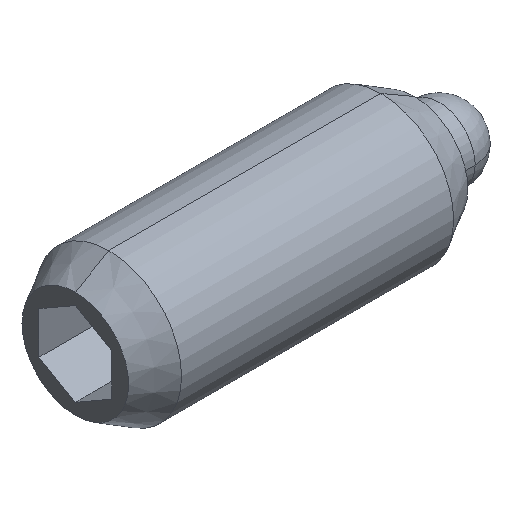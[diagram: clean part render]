
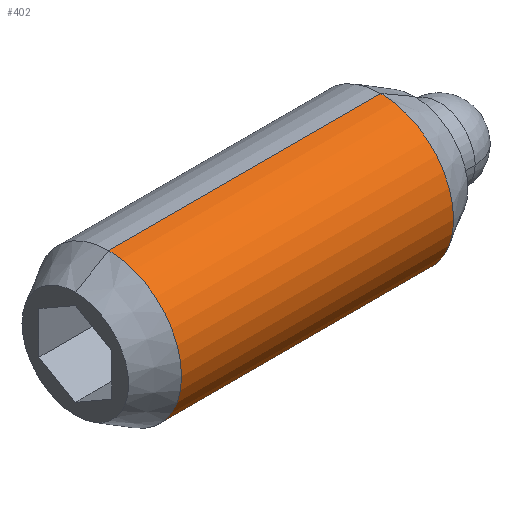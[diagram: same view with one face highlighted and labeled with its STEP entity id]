
A CAD part, isometric view. The second image highlights one B-rep face of the part: STEP entity #402.
In plain terms, the highlighted cylindrical face has radius 9.525 mm (diameter 19.05 mm), a partial arc.
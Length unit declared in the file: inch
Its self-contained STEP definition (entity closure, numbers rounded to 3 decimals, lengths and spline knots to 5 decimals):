
#211 = VERTEX_POINT ( 'NONE', #688 ) ;
#247 = VERTEX_POINT ( 'NONE', #760 ) ;
#294 = EDGE_CURVE ( 'NONE', #247, #315, #852, .T. ) ;
#297 = EDGE_CURVE ( 'NONE', #211, #312, #848, .T. ) ;
#312 = VERTEX_POINT ( 'NONE', #936 ) ;
#315 = VERTEX_POINT ( 'NONE', #930 ) ;
#381 = ORIENTED_EDGE ( 'NONE', *, *, #297, .T. ) ;
#382 = ORIENTED_EDGE ( 'NONE', *, *, #383, .T. ) ;
#383 = EDGE_CURVE ( 'NONE', #312, #315, #1045, .T. ) ;
#402 = ADVANCED_FACE ( 'NONE', ( #1070 ), #1069, .T. ) ;
#403 = EDGE_LOOP ( 'NONE', ( #404, #405, #381, #382 ) ) ;
#404 = ORIENTED_EDGE ( 'NONE', *, *, #294, .F. ) ;
#405 = ORIENTED_EDGE ( 'NONE', *, *, #406, .T. ) ;
#406 = EDGE_CURVE ( 'NONE', #247, #211, #1063, .T. ) ;
#688 = CARTESIAN_POINT ( 'NONE',  ( 1.57679, 0., 0.375 ) ) ;
#760 = CARTESIAN_POINT ( 'NONE',  ( 1.57679, 0., -0.375 ) ) ;
#845 = DIRECTION ( 'NONE',  ( -1., 0., 0. ) ) ;
#846 = VECTOR ( 'NONE', #845, 39.37008 ) ;
#847 = CARTESIAN_POINT ( 'NONE',  ( 1.75, 0., 0.375 ) ) ;
#848 = LINE ( 'NONE', #847, #846 ) ;
#849 = DIRECTION ( 'NONE',  ( -1., 0., 0. ) ) ;
#850 = VECTOR ( 'NONE', #849, 39.37008 ) ;
#851 = CARTESIAN_POINT ( 'NONE',  ( 1.75, 0., -0.375 ) ) ;
#852 = LINE ( 'NONE', #851, #850 ) ;
#930 = CARTESIAN_POINT ( 'NONE',  ( 0.17321, 0., -0.375 ) ) ;
#936 = CARTESIAN_POINT ( 'NONE',  ( 0.17321, 0., 0.375 ) ) ;
#1041 = DIRECTION ( 'NONE',  ( 0., 0., -1. ) ) ;
#1042 = DIRECTION ( 'NONE',  ( 1., 0., 0. ) ) ;
#1043 = CARTESIAN_POINT ( 'NONE',  ( 0.17321, 0., 0. ) ) ;
#1044 = AXIS2_PLACEMENT_3D ( 'NONE', #1043, #1042, #1041 ) ;
#1045 = CIRCLE ( 'NONE', #1044, 0.375 ) ;
#1063 = CIRCLE ( 'NONE', #1067, 0.375 ) ;
#1064 = DIRECTION ( 'NONE',  ( 0., 0., 1. ) ) ;
#1065 = DIRECTION ( 'NONE',  ( -1., 0., 0. ) ) ;
#1066 = AXIS2_PLACEMENT_3D ( 'NONE', #1068, #1065, #1064 ) ;
#1067 = AXIS2_PLACEMENT_3D ( 'NONE', #1116, #1115, #1114 ) ;
#1068 = CARTESIAN_POINT ( 'NONE',  ( 1.75, 0., 0. ) ) ;
#1069 = CYLINDRICAL_SURFACE ( 'NONE', #1066, 0.375 ) ;
#1070 = FACE_OUTER_BOUND ( 'NONE', #403, .T. ) ;
#1114 = DIRECTION ( 'NONE',  ( 0., 0., -1. ) ) ;
#1115 = DIRECTION ( 'NONE',  ( -1., 0., 0. ) ) ;
#1116 = CARTESIAN_POINT ( 'NONE',  ( 1.57679, 0., 0. ) ) ;
